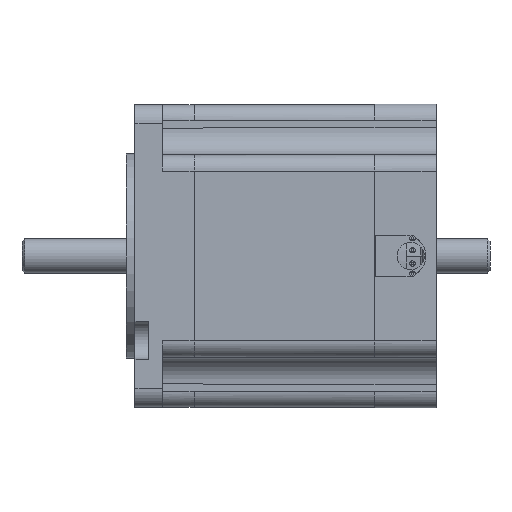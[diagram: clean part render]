
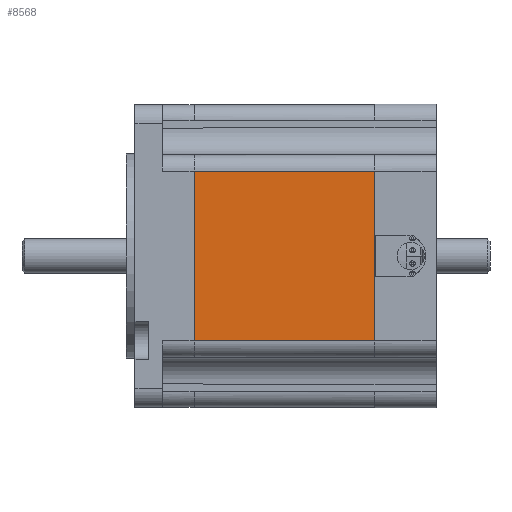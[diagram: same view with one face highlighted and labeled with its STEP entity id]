
A CAD part, front view. The second image highlights one B-rep face of the part: STEP entity #8568.
In plain terms, the highlighted planar face has unit normal (0, -1, 0).
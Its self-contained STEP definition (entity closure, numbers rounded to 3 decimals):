
#8453=CARTESIAN_POINT('',(11.,-28.1,-15.8));
#8454=VERTEX_POINT('',#8453);
#8504=CARTESIAN_POINT('',(44.5,-28.1,-15.8));
#8505=VERTEX_POINT('',#8504);
#8513=CARTESIAN_POINT('',(11.,-28.1,-15.8));
#8514=DIRECTION('',(1.,0.,0.));
#8515=VECTOR('',#8514,33.5);
#8516=LINE('',#8513,#8515);
#8517=EDGE_CURVE('',#8454,#8505,#8516,.T.);
#8522=CARTESIAN_POINT('',(27.75,-28.1,0.));
#8523=DIRECTION('',(0.,0.,-1.));
#8524=DIRECTION('',(0.,-1.,0.));
#8525=AXIS2_PLACEMENT_3D('',#8522,#8524,#8523);
#8526=PLANE('',#8525);
#8527=CARTESIAN_POINT('',(11.,-28.1,15.8));
#8528=VERTEX_POINT('',#8527);
#8529=CARTESIAN_POINT('',(11.,-28.1,-15.8));
#8530=DIRECTION('',(0.,0.,1.));
#8531=VECTOR('',#8530,31.6);
#8532=LINE('',#8529,#8531);
#8533=EDGE_CURVE('',#8454,#8528,#8532,.T.);
#8534=ORIENTED_EDGE('E264',*,*,#8533,.F.);
#8535=ORIENTED_EDGE('E264',*,*,#8517,.T.);
#8536=CARTESIAN_POINT('',(44.5,-28.1,-3.81));
#8537=VERTEX_POINT('',#8536);
#8538=CARTESIAN_POINT('',(44.5,-28.1,-3.81));
#8539=DIRECTION('',(0.,0.,-1.));
#8540=VECTOR('',#8539,11.99);
#8541=LINE('',#8538,#8540);
#8542=EDGE_CURVE('',#8537,#8505,#8541,.T.);
#8543=ORIENTED_EDGE('E113403',*,*,#8542,.F.);
#8544=CARTESIAN_POINT('',(44.5,-28.1,3.81));
#8545=VERTEX_POINT('',#8544);
#8546=CARTESIAN_POINT('',(44.5,-28.1,3.81));
#8547=DIRECTION('',(0.,0.,-1.));
#8548=VECTOR('',#8547,7.62);
#8549=LINE('',#8546,#8548);
#8550=EDGE_CURVE('',#8545,#8537,#8549,.T.);
#8551=ORIENTED_EDGE('E113400',*,*,#8550,.F.);
#8552=CARTESIAN_POINT('',(44.5,-28.1,15.8));
#8553=VERTEX_POINT('',#8552);
#8554=CARTESIAN_POINT('',(44.5,-28.1,15.8));
#8555=DIRECTION('',(0.,0.,-1.));
#8556=VECTOR('',#8555,11.99);
#8557=LINE('',#8554,#8556);
#8558=EDGE_CURVE('',#8553,#8545,#8557,.T.);
#8559=ORIENTED_EDGE('E81848',*,*,#8558,.F.);
#8560=CARTESIAN_POINT('',(11.,-28.1,15.8));
#8561=DIRECTION('',(1.,0.,0.));
#8562=VECTOR('',#8561,33.5);
#8563=LINE('',#8560,#8562);
#8564=EDGE_CURVE('',#8528,#8553,#8563,.T.);
#8565=ORIENTED_EDGE('E1464',*,*,#8564,.F.);
#8566=EDGE_LOOP('',(#8534,#8535,#8543,#8551,#8559,#8565));
#8567=FACE_OUTER_BOUND('',#8566,.T.);
#8568=ADVANCED_FACE('F38402',(#8567),#8526,.T.);
